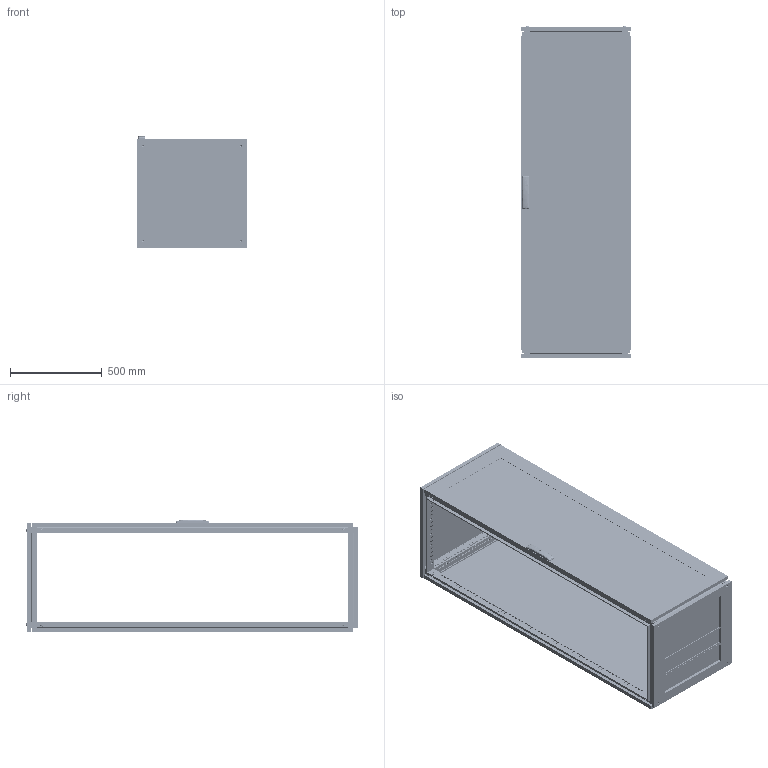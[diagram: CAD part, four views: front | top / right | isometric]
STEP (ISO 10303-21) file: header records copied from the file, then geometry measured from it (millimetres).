
FILE_DESCRIPTION (( 'STEP AP203' ), '1' );
FILE_NAME ('R5CQEN1866AX.STEP', '2025-05-07T11:57:21', ( '' ), ( '' ), 'SwSTEP 2.0', 'SolidWorks 2022', '' );
FILE_SCHEMA (( 'CONFIG_CONTROL_DESIGN' ));
Length unit declared in the file: millimetre
Products named in the file (66): Square cap 20x20 simple; RB.2528.00.00.0 simple_-04; RB.2755.00.00.0 СБ simple_-14; RB.2686.00.00.0 simple; RB.2680.00.02.0 simple; RB.2456.00.00.0 simple_-02; RB.1867.01.01.0 simple_-09; RB.2499.00.00.0 СБ simple_-14; RB.2680.00.01.0 simple; PF 7x14 CRE simple_1800x0600; M6x15 Erickson cl.4,8 Zinc; M8x12 AC00C476 cl.8,8 Zinc_stright; RB.0054.01.01.0 simple_-17; R5NKMN - Assem simple_R5NKMN18 (600х600); RB.2685.00.00.0 simple_-02; R5NKTB - Assem simple_H=1800 R5NKTB66; Glue CPTE simple_1800x0600; RB.2052.01.00.0 СБ simple_-17; R5CQEN1866AX; M6 DIN 985 cl.6,0 Zinc_straight; Glass CPTE_1800x0600; R5NCPTE - Assem simple_R5NCPTE1860; RB.2696.00.00.0 simple; AC00C446-R; ATOS Traction guide ILY03.35; M6x10 DIN 7500 M Torx cl.5.8 Zinc_straight; TPA.08.0084.00.00.0 simple; TPA.08.0139.00.03.0; RB.0528.00.01.0 simple_-04; TPA.08.0139.00.01.0 simple; RB.0562.00.00.0 СБ simple_-12; RB.0562.01.01.0 simple_-12; RB.2968.00.00.0 simple; RB.2357.00.00.0 simple_-03; RB.0528.04.00.0 СБ simple; RB.2702.00.00.0 simple; RB.1957.00.00.0 simple_-06; 7 DIN 6799 Zinc; 4,0x16 F Torx Zinc (ART 88200)_thread; M6 MGR-MKO-0625 simple_Thread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
Assembly tree (173 placements, depth 5):
  R5CQEN1866AX
    R5NCPTE - Assem simple_R5NCPTE1860
      RB.0562.00.00.0 СБ simple_-12
        RB.0562.01.00.0 СБ simple_-12
          RB.0562.01.01.0 simple_-12
          М6х12 A5100231_straight  x7
          RB.2702.00.00.0 simple  x4
          PF 7,5x15 CPE simple_1800x0600
          Glass CPTE_1800x0600
          Glue CPTE simple_1800x0600
        Square cap 20x20 simple  x2
        M6x15 Erickson cl.4,8 Zinc  x2
        RB.0528.00.01.0 simple_-04  x2
        ATOS Traction guide ILY03.35  x4
        RB.2357.00.00.0 simple_-03
        RB.2680.00.00.0 СБ simple
          TPA.08.0139.00.01.0 simple
          RB.2680.00.01.0 simple
          RB.2680.00.02.0 simple  x2
        TPA.08.0139.00.03.0  x2
        M6 DIN 985 cl.6,0 Zinc_straight  x4
        4,0x16 F Torx Zinc (ART 88200)_thread  x2
        RB.0528.04.00.0 СБ simple  x2
          RB.0528.04.01.0 simple
          Pressing stud FH-M6-12_M6x12mm
      M6x10 DIN 912 HX cl.8,8 Zinc_straight  x8
      4.8x13 DIN 7981 PH Zinc_straight
      7 DIN 6799 Zinc simple  x4
      RB.2968.00.00.0 simple  x4
      RB.2969.00.00.0 СБ simple  x4
        RB.2969.00.01.0 simple
        Pin 4x16 DIN 7 AISI 303 (A1) simple
        M6 MGR-MKO-0625 simple_Thread
      AC00C446-R
      RB.2696.00.00.0 simple  x4
      7 DIN 6799 Zinc  x4
    R5NCRE-Assem simple_R5NCRE1860
      RB.2052.00.00.0 СБ simple_-17
        RB.2052.01.00.0 СБ simple_-17
          RB.0054.01.01.0 simple_-17
          М6х12 A5100231_straight  x4
        PF 7x14 CRE simple_1800x0600
      RB.2172.00.00.1 simple  x8
      M6x10 DIN 7500 E HX cl.5.8 Zinc_straight  x8
      M6x10 DIN 7500 M Torx cl.5.8 Zinc_straight  x8
    R5NKMN - Assem simple_R5NKMN18 (600х600)
      RB.2528.00.00.0 simple_-04  x4
    R5NKTB - Assem simple_H=1800 R5NKTB66
      RB.2499.00.00.0 СБ simple_-14
        RB.2499.01.00.0 СБ simple_-13
          RB.1633.00.01.0 simple_-02  x2
          RB.1633.00.02.0 simple_-02  x2
          PF 5x10 KTB simple_600x600
        RB.2457.00.00.0 СБ simple_-14
          RB.2455.00.00.0 simple_-02  x2
          RB.2456.00.00.0 simple_-02  x2
          TPA.08.0084.00.00.0 simple  x2
          TPA.08.0083.00.00.0 simple  x2
          M8x12 AC00C476 cl.8,8 Zinc_stright  x4
        RB.1957.00.00.0 simple_-05  x2
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Bounding box: 600 x 1813.3 x 614.74 mm (x, y, z)
Volume: 13783830.7 mm3; surface area: 12154871.6 mm2
Topology: 176 solids, 192 shells, 21261 faces, 60143 edges, 39587 vertices
Faces by surface type: plane 11939, cylinder 7781, cone 704, bspline 435, torus 368, sphere 34
Entity records: 215032 total; most frequent: CARTESIAN_POINT 53741, ORIENTED_EDGE 31902, DIRECTION 30349, EDGE_CURVE 15977, VERTEX_POINT 10574, AXIS2_PLACEMENT_3D 10173, LINE 10003, VECTOR 10003
